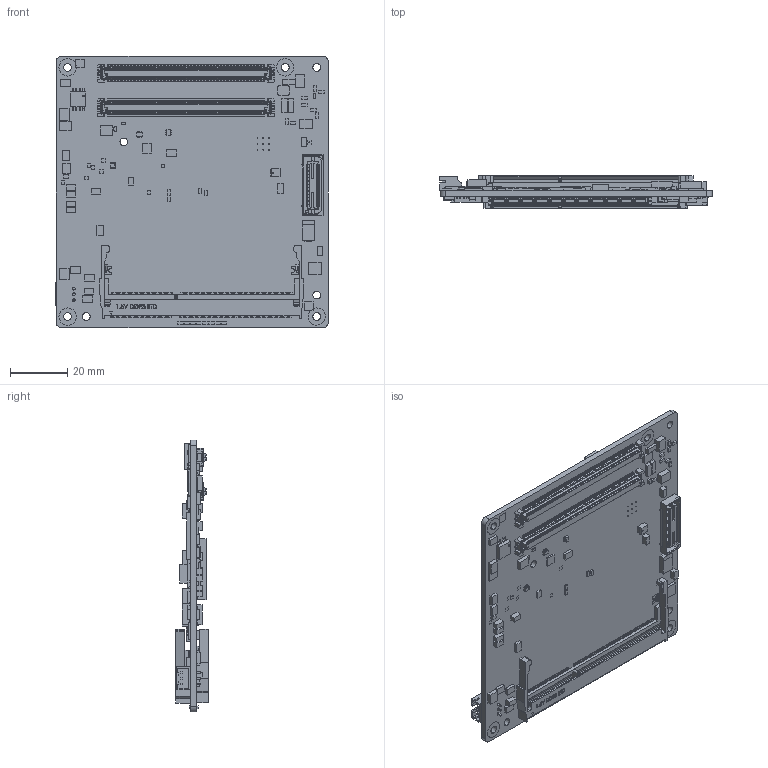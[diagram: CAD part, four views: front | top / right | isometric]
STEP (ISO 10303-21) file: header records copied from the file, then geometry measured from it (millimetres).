
FILE_DESCRIPTION (( 'STEP AP203' ), '1' );
FILE_NAME ('SOM-6869PC-S2A1E.STEP', '2017-07-20T07:39:03', ( '' ), ( '' ), 'SwSTEP 2.0', 'SolidWorks 2016', '' );
FILE_SCHEMA (( 'CONFIG_CONTROL_DESIGN' ));
Products named in the file (1): SOM-6869PC-S2A1E
Bounding box: 95.09 x 11.32 x 95 mm (x, y, z)
Volume: 27571.1 mm3; surface area: 36354.5 mm2
Topology: 252 solids, 252 shells, 13819 faces, 37996 edges, 25236 vertices
Faces by surface type: plane 12500, cylinder 1159, bspline 145, cone 12, torus 3
Entity records: 438331 total; most frequent: CARTESIAN_POINT 84984, ORIENTED_EDGE 75984, DIRECTION 67364, EDGE_CURVE 37992, VECTOR 35334, LINE 35334, VERTEX_POINT 25236, AXIS2_PLACEMENT_3D 16015
